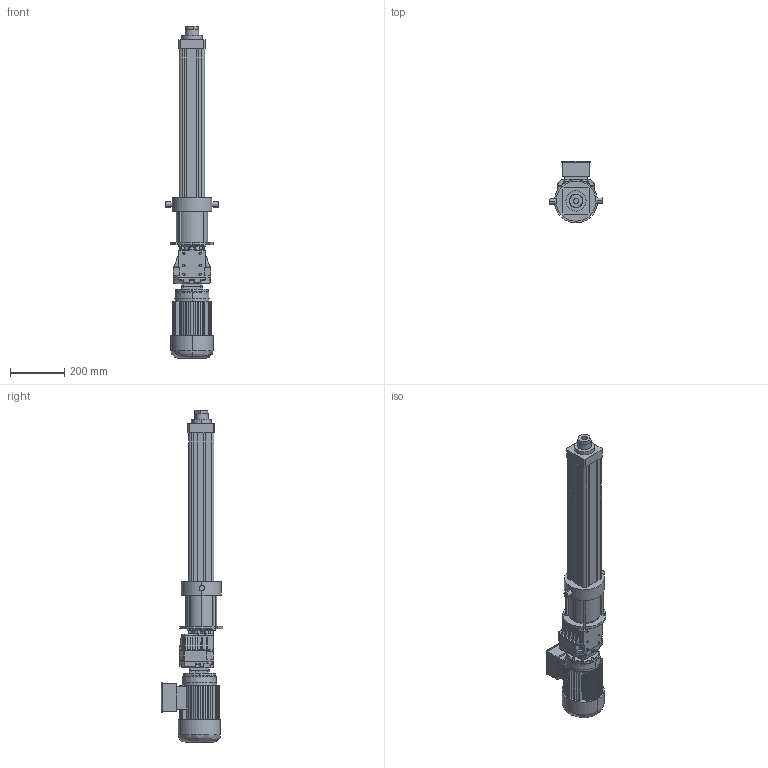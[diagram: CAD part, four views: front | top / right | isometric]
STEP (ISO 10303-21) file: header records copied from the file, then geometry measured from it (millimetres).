
FILE_DESCRIPTION (( 'STEP AP214' ), '1' );
FILE_NAME ('Ass MR80 BI C400.STEP', '2016-12-25T10:38:49', ( 'Hubert' ), ( '' ), 'SwSTEP 2.0', 'SolidWorks 2014', '' );
FILE_SCHEMA (( 'AUTOMOTIVE_DESIGN' ));
Length unit declared in the file: millimetre
Products named in the file (10): Profilé MRRV80 BI C400; Vis MRRV80 BI C400; PAAR 80 B160; PAAR 80B160; Ass 402A_F MOT 80 F; _P_402A_-F_6,36_V_3_-R___B3.3d; _AT_80_B_2_1,10_B14_F_230-400-50_DC-S.3d; Ass MR80 BI C400; Tube MR 80 BI C400; PAAV 80 D
Assembly tree (9 placements, depth 3):
  Ass MR80 BI C400
    Ass 402A_F MOT 80 F
      _AT_80_B_2_1,10_B14_F_230-400-50_DC-S.3d
      _P_402A_-F_6,36_V_3_-R___B3.3d
    PAAR 80 B160
      PAAR 80B160
    Vis MRRV80 BI C400
    Profilé MRRV80 BI C400
    PAAV 80 D
    Tube MR 80 BI C400
Bounding box: 198.33 x 229 x 1228.8 mm (x, y, z)
Volume: 8201055.4 mm3; surface area: 1393491.5 mm2
Topology: 6 solids, 26 shells, 1443 faces, 3631 edges, 2299 vertices
Faces by surface type: plane 787, cylinder 440, cone 112, bspline 104
Entity records: 78633 total; most frequent: CARTESIAN_POINT 30556, ORIENTED_EDGE 7184, DIRECTION 6238, EDGE_CURVE 3593, VERTEX_POINT 2299, LINE 2122, VECTOR 2122, AXIS2_PLACEMENT_3D 2058
